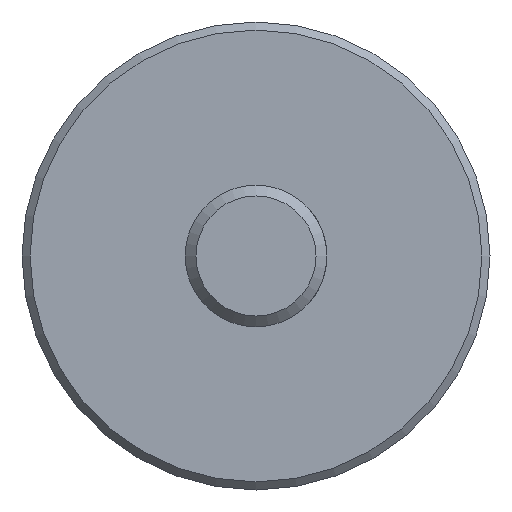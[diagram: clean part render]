
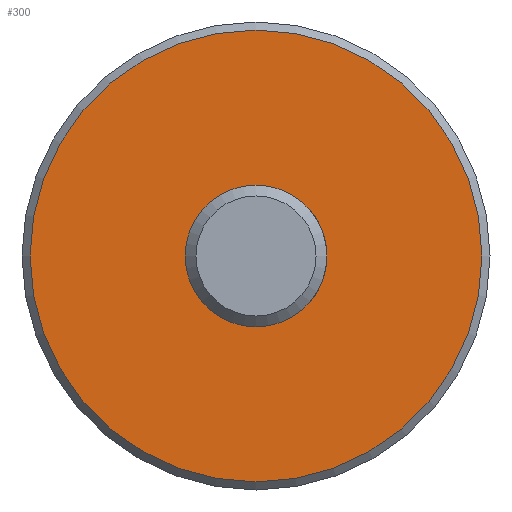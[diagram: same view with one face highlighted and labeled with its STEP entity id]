
A CAD part, front view. The second image highlights one B-rep face of the part: STEP entity #300.
In plain terms, the highlighted planar face has unit normal (0, -1, 0).
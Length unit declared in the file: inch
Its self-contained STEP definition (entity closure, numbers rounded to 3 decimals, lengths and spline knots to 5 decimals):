
#4 = FACE_OUTER_BOUND ( 'NONE', #541, .T. ) ;
#52 = FACE_BOUND ( 'NONE', #457, .T. ) ;
#70 = CARTESIAN_POINT ( 'NONE',  ( 0., 3.28, 1.255 ) ) ;
#92 = DIRECTION ( 'NONE',  ( 0., 1., 0. ) ) ;
#113 = CIRCLE ( 'NONE', #437, 0.3937 ) ;
#187 = AXIS2_PLACEMENT_3D ( 'NONE', #479, #92, #263 ) ;
#193 = AXIS2_PLACEMENT_3D ( 'NONE', #379, #281, #275 ) ;
#229 = CIRCLE ( 'NONE', #193, 1.255 ) ;
#232 = PLANE ( 'NONE',  #187 ) ;
#251 = CARTESIAN_POINT ( 'NONE',  ( 0., 3.28, 0.3937 ) ) ;
#263 = DIRECTION ( 'NONE',  ( 0., 0., 1. ) ) ;
#275 = DIRECTION ( 'NONE',  ( 0., 0., 1. ) ) ;
#279 = EDGE_CURVE ( 'NONE', #511, #511, #113, .T. ) ;
#281 = DIRECTION ( 'NONE',  ( 0., 1., 0. ) ) ;
#300 = ADVANCED_FACE ( 'NONE', ( #4, #52 ), #232, .F. ) ;
#318 = DIRECTION ( 'NONE',  ( 0., 0., 1. ) ) ;
#344 = EDGE_CURVE ( 'NONE', #392, #392, #229, .T. ) ;
#379 = CARTESIAN_POINT ( 'NONE',  ( 0., 3.28, 0. ) ) ;
#392 = VERTEX_POINT ( 'NONE', #70 ) ;
#437 = AXIS2_PLACEMENT_3D ( 'NONE', #535, #540, #318 ) ;
#442 = ORIENTED_EDGE ( 'NONE', *, *, #344, .F. ) ;
#457 = EDGE_LOOP ( 'NONE', ( #489 ) ) ;
#479 = CARTESIAN_POINT ( 'NONE',  ( 0.3937, 3.28, 0. ) ) ;
#489 = ORIENTED_EDGE ( 'NONE', *, *, #279, .T. ) ;
#511 = VERTEX_POINT ( 'NONE', #251 ) ;
#535 = CARTESIAN_POINT ( 'NONE',  ( 0., 3.28, 0. ) ) ;
#540 = DIRECTION ( 'NONE',  ( 0., 1., 0. ) ) ;
#541 = EDGE_LOOP ( 'NONE', ( #442 ) ) ;
